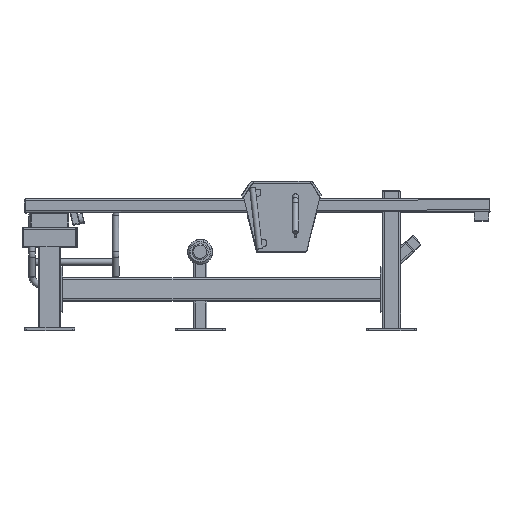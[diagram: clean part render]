
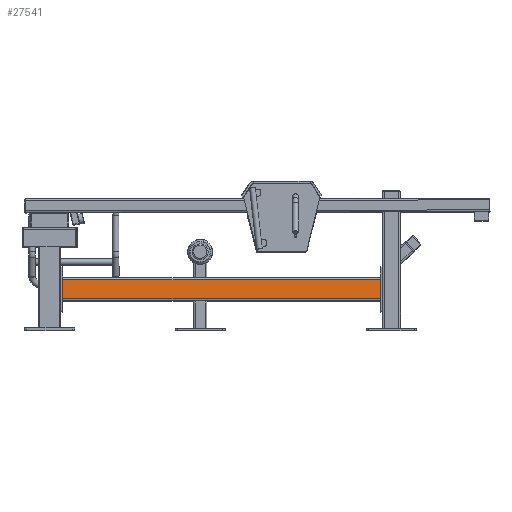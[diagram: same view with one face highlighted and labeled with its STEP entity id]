
A CAD part, top view. The second image highlights one B-rep face of the part: STEP entity #27541.
In plain terms, the highlighted planar face has unit normal (0.129, 0, 0.992).
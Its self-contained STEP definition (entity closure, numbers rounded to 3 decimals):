
#1597=LINE('',#43792,#4209);
#1600=LINE('',#43805,#4212);
#1603=LINE('',#43814,#4215);
#1604=LINE('',#43815,#4216);
#4209=VECTOR('',#34484,1000.);
#4212=VECTOR('',#34495,1000.);
#4215=VECTOR('',#34504,1000.);
#4216=VECTOR('',#34505,1000.);
#7117=FACE_OUTER_BOUND('',#8886,.T.);
#8886=EDGE_LOOP('',(#20650,#20651,#20652,#20653));
#12279=VERTEX_POINT('',#43789);
#12280=VERTEX_POINT('',#43791);
#12285=VERTEX_POINT('',#43802);
#12286=VERTEX_POINT('',#43804);
#15322=EDGE_CURVE('',#12280,#12279,#1597,.T.);
#15328=EDGE_CURVE('',#12286,#12285,#1600,.T.);
#15333=EDGE_CURVE('',#12285,#12280,#1603,.T.);
#15334=EDGE_CURVE('',#12279,#12286,#1604,.T.);
#20650=ORIENTED_EDGE('',*,*,#15333,.T.);
#20651=ORIENTED_EDGE('',*,*,#15322,.T.);
#20652=ORIENTED_EDGE('',*,*,#15334,.T.);
#20653=ORIENTED_EDGE('',*,*,#15328,.T.);
#26410=PLANE('',#29737);
#27541=ADVANCED_FACE('',(#7117),#26410,.F.);
#29737=AXIS2_PLACEMENT_3D('',#43813,#34502,#34503);
#34484=DIRECTION('',(0.,1.,0.));
#34495=DIRECTION('',(0.,-1.,0.));
#34502=DIRECTION('center_axis',(-0.129,0.,
-0.992));
#34503=DIRECTION('ref_axis',(0.,1.,0.));
#34504=DIRECTION('',(0.992,0.,-0.129));
#34505=DIRECTION('',(-0.992,0.,0.129));
#43789=CARTESIAN_POINT('',(337.827,-476.052,63.076));
#43791=CARTESIAN_POINT('',(337.827,-560.052,63.076));
#43792=CARTESIAN_POINT('',(337.827,-1757.446,63.076));
#43802=CARTESIAN_POINT('',(-1057.66,-560.052,244.319));
#43804=CARTESIAN_POINT('',(-1057.66,-476.052,244.319));
#43805=CARTESIAN_POINT('',(-1057.66,-468.052,244.319));
#43813=CARTESIAN_POINT('Origin',(345.554,-468.052,62.073));
#43814=CARTESIAN_POINT('',(345.554,-560.052,62.073));
#43815=CARTESIAN_POINT('',(345.554,-476.052,62.073));
